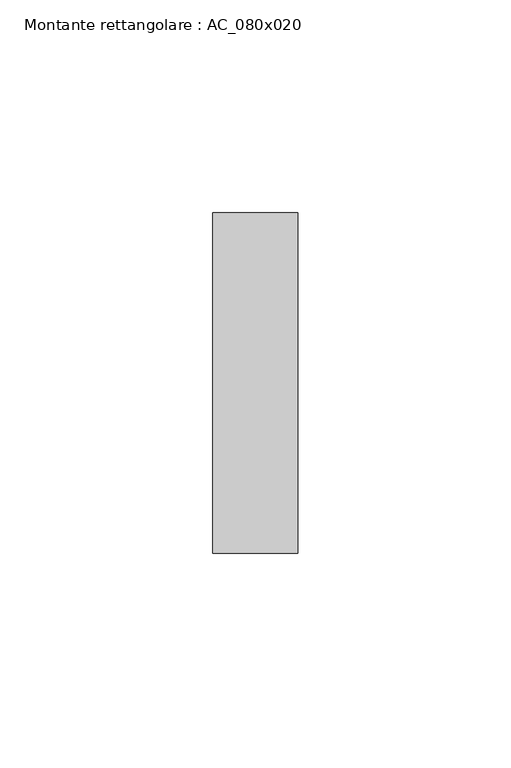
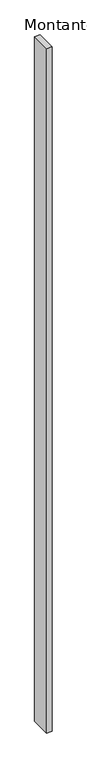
"""IFC4 building model written with IfcOpenShell, lengths in millimetres: member geometry, Montante rettangolare : AC_080x020."""

from ifc_helpers import new_model, si_unit, frame, origin, place, context, project, spatial, polyline, outline, extrude, source, transform, mapped, element, save


def montante_rettangolare_ac_080x020_5f120261(model_context):
    return source(origin(), model_context, "Body", "SweptSolid", [
        extrude(outline(polyline([(0.0, 40.0), (0.0, -40.0), (-20.0, -40.0), (-20.0, 40.0), (0.0, 40.0)])), frame((0.0, 0.0, -2770.0), z_axis=(0.0, 0.0, 1.0), x_axis=(1.0, 0.0, 0.0)), (0.0, 0.0, 1.0), 2770.0),
    ])


if __name__ == "__main__":
    model = new_model("IFC4")
    model_context = context("Model", 3, world=origin())
    ifc_project = project(units=[si_unit("LENGTHUNIT", "METRE", prefix="MILLI")], contexts=[model_context])
    site = spatial("IfcSite", under=ifc_project)
    building = spatial("IfcBuilding", under=site)
    placement = place(None, origin())
    montante_rettangolare_ac_080x020_shape = montante_rettangolare_ac_080x020_5f120261(model_context)
    element("IfcMember", 1, ObjectType="Montante rettangolare : AC_080x020", at=placement, inside=building, context=model_context, shape_type="MappedRepresentation", body=[
        mapped(montante_rettangolare_ac_080x020_shape, transform((0.0, 0.0, 0.0), x_axis=(1.0, 0.0, 0.0), y_axis=(0.0, 1.0, 0.0), z_axis=(0.0, 0.0, 1.0))),
    ])
    save(model, "model.ifc")
